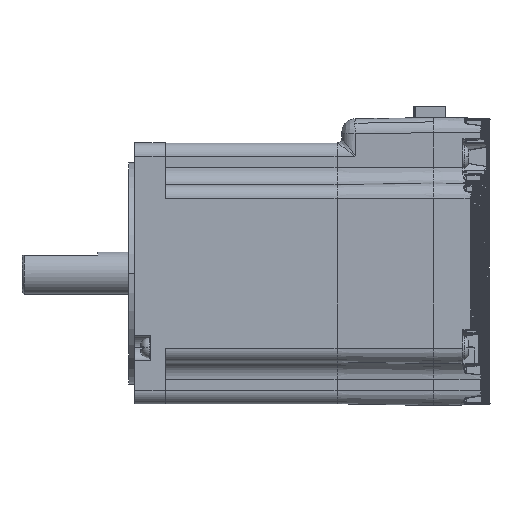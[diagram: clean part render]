
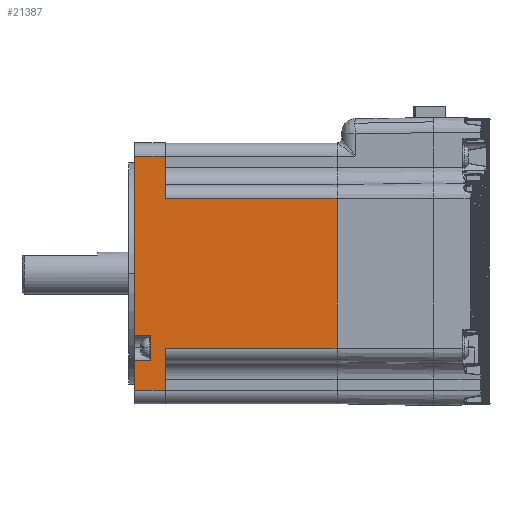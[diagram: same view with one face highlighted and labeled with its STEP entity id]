
A CAD part, left-side view. The second image highlights one B-rep face of the part: STEP entity #21387.
In plain terms, the highlighted planar face has unit normal (-1, 0, 0).
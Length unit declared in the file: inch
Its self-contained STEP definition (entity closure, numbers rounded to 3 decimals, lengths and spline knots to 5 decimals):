
#8526=VERTEX_POINT('',#26474);
#8726=EDGE_CURVE('',#8947,#10423,#26697,.T.);
#8891=VERTEX_POINT('',#26883);
#8947=VERTEX_POINT('',#26947);
#10423=VERTEX_POINT('',#28599);
#11375=EDGE_CURVE('',#8526,#25067,#29626,.T.);
#12291=VERTEX_POINT('',#30627);
#13244=VERTEX_POINT('',#31668);
#14463=EDGE_CURVE('',#22275,#23377,#33004,.T.);
#14819=EDGE_CURVE('',#10423,#14996,#33389,.T.);
#14996=VERTEX_POINT('',#33582);
#15517=EDGE_CURVE('',#13244,#20110,#34160,.T.);
#16774=EDGE_CURVE('',#25067,#12291,#35537,.T.);
#17868=EDGE_CURVE('',#8891,#20110,#36731,.T.);
#19379=EDGE_CURVE('',#23377,#8526,#38376,.T.);
#19854=EDGE_CURVE('',#22275,#8947,#38902,.T.);
#20042=VERTEX_POINT('',#39110);
#20110=VERTEX_POINT('',#39183);
#20367=EDGE_CURVE('',#12291,#8891,#39467,.T.);
#20471=EDGE_CURVE('',#20042,#13244,#39577,.T.);
#21009=EDGE_CURVE('',#14996,#20042,#40166,.T.);
#21387=ADVANCED_FACE('New 3D Block[1]',(#40578),#40579,.T.);
#22275=VERTEX_POINT('',#41553);
#23377=VERTEX_POINT('',#42760);
#25067=VERTEX_POINT('',#44622);
#26474=CARTESIAN_POINT('',(-7.04536,2.619,4.25749));
#26697=LINE('',#47738,#47739);
#26883=CARTESIAN_POINT('',(-7.04536,2.619,3.92749));
#26947=CARTESIAN_POINT('',(-7.04536,2.225,6.02948));
#28599=CARTESIAN_POINT('',(-7.04536,0.,6.02948));
#29626=LINE('',#57670,#57671);
#30627=CARTESIAN_POINT('',(-7.04536,2.409,3.92749));
#31668=CARTESIAN_POINT('',(-7.04536,2.225,3.54348));
#33004=LINE('',#69918,#69919);
#33389=LINE('',#71286,#71287);
#33582=CARTESIAN_POINT('',(-7.04536,0.,4.08748));
#34160=LINE('',#74923,#74924);
#35537=LINE('',#79319,#79320);
#36731=LINE('',#83747,#83748);
#38376=LINE('',#88759,#88760);
#38902=LINE('',#90291,#90292);
#39110=CARTESIAN_POINT('',(-7.04536,2.225,4.08748));
#39183=CARTESIAN_POINT('',(-7.04536,2.619,3.54348));
#39467=LINE('',#92495,#92496);
#39577=LINE('',#92742,#92743);
#40166=LINE('',#94909,#94910);
#40578=FACE_OUTER_BOUND('',#96266,.T.);
#40579=PLANE('',#96267);
#41553=CARTESIAN_POINT('',(-7.04536,2.225,6.57348));
#42760=CARTESIAN_POINT('',(-7.04536,2.619,6.57348));
#44622=CARTESIAN_POINT('',(-7.04536,2.409,4.25749));
#47738=CARTESIAN_POINT('',(-7.04536,1.73,6.02948));
#47739=VECTOR('',#116078,39.37008);
#57670=CARTESIAN_POINT('',(-7.04536,2.619,4.25749));
#57671=VECTOR('',#118859,39.37008);
#69918=CARTESIAN_POINT('',(-7.04536,2.219,6.57348));
#69919=VECTOR('',#121926,39.37008);
#71286=CARTESIAN_POINT('',(-7.04536,0.,4.08748));
#71287=VECTOR('',#122262,39.37008);
#74923=CARTESIAN_POINT('',(-7.04536,2.219,3.54348));
#74924=VECTOR('',#122998,39.37008);
#79319=CARTESIAN_POINT('',(-7.04536,2.409,4.08999));
#79320=VECTOR('',#124236,39.37008);
#83747=CARTESIAN_POINT('',(-7.04536,2.619,3.54348));
#83748=VECTOR('',#125268,39.37008);
#88759=CARTESIAN_POINT('',(-7.04536,2.619,3.54348));
#88760=VECTOR('',#126770,39.37008);
#90291=CARTESIAN_POINT('',(-7.04536,2.225,3.54348));
#90292=VECTOR('',#127299,39.37008);
#92495=CARTESIAN_POINT('',(-7.04536,2.619,3.92749));
#92496=VECTOR('',#127809,39.37008);
#92742=CARTESIAN_POINT('',(-7.04536,2.225,3.54348));
#92743=VECTOR('',#127881,39.37008);
#94909=CARTESIAN_POINT('',(-7.04536,0.,4.08748));
#94910=VECTOR('',#128427,39.37008);
#96266=EDGE_LOOP('',(#128782,#128783,#128784,#128785,#128786,#128787,#128788,#128789,#128790,#128791,#128792,#128793));
#96267=AXIS2_PLACEMENT_3D('',#128794,#128795,#128796);
#116078=DIRECTION('',(0.0,-1.0,0.0));
#118859=DIRECTION('',(0.0,-1.0,0.0));
#121926=DIRECTION('',(0.0,1.0,0.0));
#122262=DIRECTION('',(0.0,0.0,-1.0));
#122998=DIRECTION('',(0.0,1.0,0.0));
#124236=DIRECTION('',(0.0,0.,-1.0));
#125268=DIRECTION('',(0.0,0.0,-1.0));
#126770=DIRECTION('',(0.0,0.0,-1.0));
#127299=DIRECTION('',(0.0,0.0,-1.0));
#127809=DIRECTION('',(0.0,1.0,0.0));
#127881=DIRECTION('',(0.0,0.0,-1.0));
#128427=DIRECTION('',(0.0,1.0,0.0));
#128782=ORIENTED_EDGE('',*,*,#21009,.F.);
#128783=ORIENTED_EDGE('',*,*,#14819,.F.);
#128784=ORIENTED_EDGE('',*,*,#8726,.F.);
#128785=ORIENTED_EDGE('',*,*,#19854,.F.);
#128786=ORIENTED_EDGE('',*,*,#14463,.T.);
#128787=ORIENTED_EDGE('',*,*,#19379,.T.);
#128788=ORIENTED_EDGE('',*,*,#11375,.T.);
#128789=ORIENTED_EDGE('',*,*,#16774,.T.);
#128790=ORIENTED_EDGE('',*,*,#20367,.T.);
#128791=ORIENTED_EDGE('',*,*,#17868,.T.);
#128792=ORIENTED_EDGE('',*,*,#15517,.F.);
#128793=ORIENTED_EDGE('',*,*,#20471,.F.);
#128794=CARTESIAN_POINT('',(-7.04536,0.,6.02948));
#128795=DIRECTION('',(-1.0,0.0,0.0));
#128796=DIRECTION('',(0.0,0.0,1.0));
